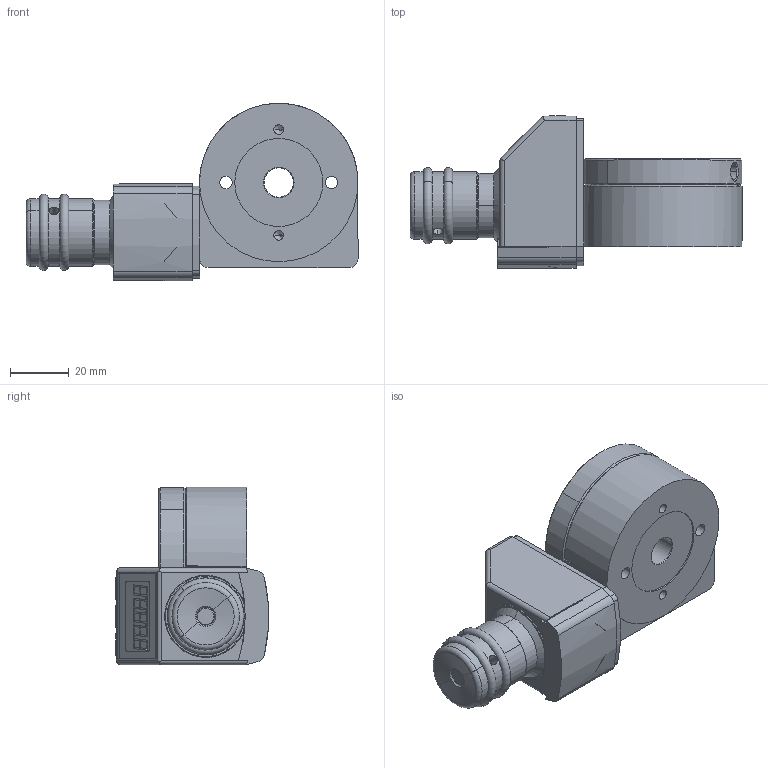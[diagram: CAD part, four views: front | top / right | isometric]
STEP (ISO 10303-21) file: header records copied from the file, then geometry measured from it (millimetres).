
FILE_DESCRIPTION (( 'STEP AP203' ), '1' );
FILE_NAME ('DT36008-PAE-Drehtisch.STEP', '2016-01-15T16:10:56', ( '' ), ( '' ), 'SwSTEP 2.0', 'SolidWorks 2014', '' );
FILE_SCHEMA (( 'CONFIG_CONTROL_DESIGN' ));
Length unit declared in the file: millimetre
Products named in the file (4): DT36008-000-Drehtisch-Gehäuse-PA_PAE; DT36008-000-03-Drehscheibe-SKPAE-komplett; PAE0812-DT-000-Elektronischer-Positionsanzeiger-Komplett_n_Standard; DT36008-PAE-Drehtisch
Assembly tree (3 placements, depth 2):
  DT36008-PAE-Drehtisch
    DT36008-000-Drehtisch-Gehäuse-PA_PAE
    DT36008-000-03-Drehscheibe-SKPAE-komplett
    PAE0812-DT-000-Elektronischer-Positionsanzeiger-Komplett_n_Standard
Bounding box: 113.13 x 51.97 x 60.5 mm (x, y, z)
Volume: 118396.8 mm3; surface area: 42419.1 mm2
Topology: 3 solids, 16 shells, 915 faces, 2290 edges, 1460 vertices
Faces by surface type: plane 435, cylinder 276, cone 142, torus 40, sphere 18, bspline 4
Entity records: 29900 total; most frequent: CARTESIAN_POINT 7131, DIRECTION 4839, ORIENTED_EDGE 4516, EDGE_CURVE 2258, AXIS2_PLACEMENT_3D 1769, VERTEX_POINT 1457, VECTOR 1301, LINE 1301
